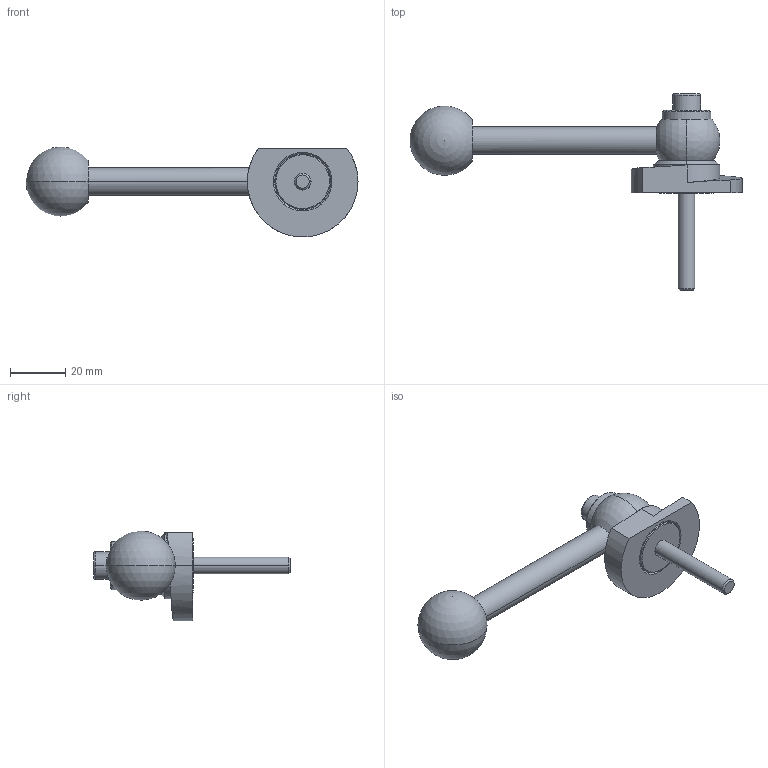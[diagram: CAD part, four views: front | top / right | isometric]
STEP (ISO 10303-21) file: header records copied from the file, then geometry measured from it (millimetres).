
FILE_DESCRIPTION (( 'STEP AP214' ), '1' );
FILE_NAME ('918.1-40-GVS-R-65.step', '2024-05-15T12:59:50', ( '' ), ( '' ), 'SwSTEP 2.0', 'SolidWorks 2022', '' );
FILE_SCHEMA (( 'AUTOMOTIVE_DESIGN' ));
Length unit declared in the file: millimetre
Products named in the file (1): 918.1-40-GVS-R-65
Bounding box: 120 x 71 x 32.5 mm (x, y, z)
Volume: 30497.3 mm3; surface area: 11398.8 mm2
Topology: 1 solids, 1 shells, 64 faces, 147 edges, 93 vertices
Faces by surface type: cylinder 22, plane 20, cone 14, sphere 4, torus 2, bspline 2
Entity records: 2045 total; most frequent: CARTESIAN_POINT 590, DIRECTION 321, ORIENTED_EDGE 274, EDGE_CURVE 137, AXIS2_PLACEMENT_3D 131, VERTEX_POINT 87, EDGE_LOOP 76, CIRCLE 68
